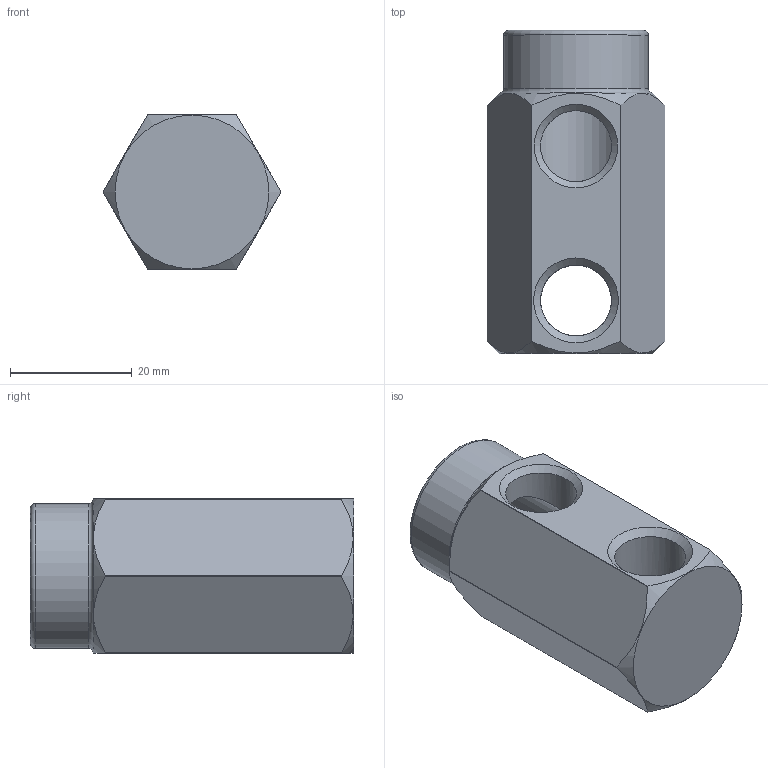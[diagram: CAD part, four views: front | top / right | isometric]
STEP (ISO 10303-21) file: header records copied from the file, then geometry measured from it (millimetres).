
FILE_DESCRIPTION(/* description */ (''),/* implementation_level */ '2;1');
FILE_NAME(/* name */ 'C:/Users/drich/Desktop/381H-4-HFT v1.step',/* time_stamp */ '2020-01-10T20:26:12-06:00',/* author */ (''),/* organization */ (''),/* preprocessor_version */ 'ST-DEVELOPER v18',/* originating_system */ 'Autodesk Translation Framework v8.12.0.6',/* authorisation */ '');
FILE_SCHEMA (('AUTOMOTIVE_DESIGN { 1 0 10303 214 3 1 1 }'));
Length unit declared in the file: inch
Products named in the file (2): 381H-4-HFT; 381H-4
Assembly tree (1 placements, depth 2):
  381H-4-HFT
    381H-4
Bounding box: 29.26 x 53.16 x 25.4 mm (x, y, z)
Volume: 19244.8 mm3; surface area: 7650.4 mm2
Topology: 1 solids, 1 shells, 31 faces, 89 edges, 59 vertices
Faces by surface type: cylinder 12, cone 9, plane 8, torus 2
Full cylindrical faces by diameter (mm): 8.509 x1, 11.668 x3, 15.173 x1, 23.8 x1
Entity records: 1179 total; most frequent: CARTESIAN_POINT 311, ORIENTED_EDGE 178, DIRECTION 175, EDGE_CURVE 89, AXIS2_PLACEMENT_3D 75, VERTEX_POINT 59, CIRCLE 41, EDGE_LOOP 36
